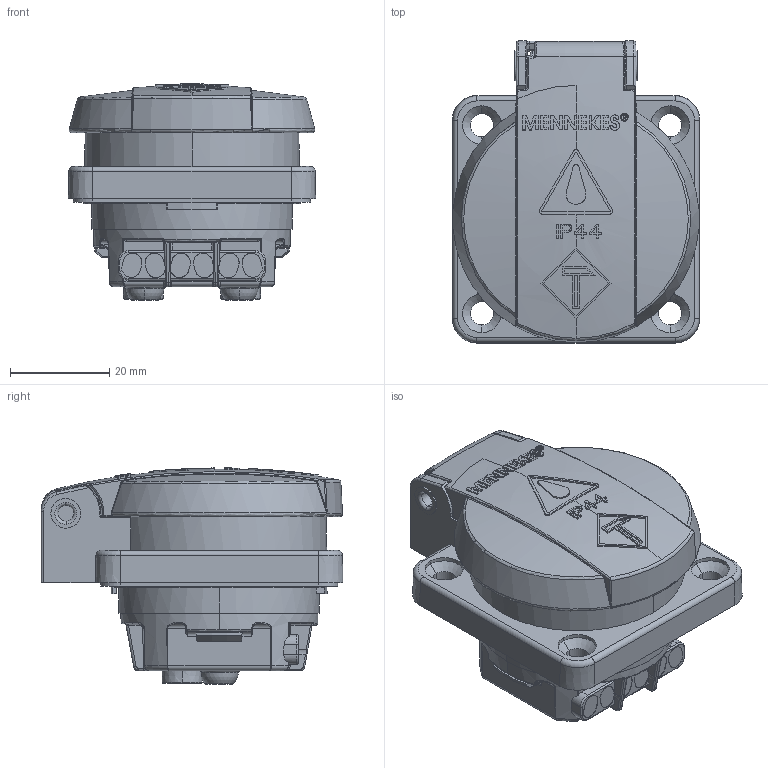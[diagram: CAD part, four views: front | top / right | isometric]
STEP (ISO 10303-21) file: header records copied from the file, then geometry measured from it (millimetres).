
FILE_DESCRIPTION((''),'2;1');
FILE_NAME('11120_SW0001','2026-01-22T13:27:50',('chylka001'),('MENNEKES'),'CREO PARAMETRIC BY PTC INC, 2024153','CREO PARAMETRIC BY PTC INC, 2024153','');
FILE_SCHEMA(('AUTOMOTIVE_DESIGN { 1 0 10303 214 1 1 1 1 }'));
Products named in the file (1): 11120_SW0001
Bounding box: 50 x 61 x 43.68 mm (x, y, z)
Volume: 65384.8 mm3; surface area: 14742 mm2
Topology: 1 solids, 1 shells, 1251 faces, 3278 edges, 2074 vertices
Faces by surface type: plane 624, cylinder 211, bspline 144, torus 86, extrusion 71, cone 66, sphere 49
Entity records: 65255 total; most frequent: CARTESIAN_POINT 16350, ORIENTED_EDGE 6552, DIRECTION 5759, PRESENTATION_STYLE_ASSIGNMENT 4599, STYLED_ITEM 3348, CURVE_STYLE 3347, EDGE_CURVE 3276, VERTEX_POINT 2074
